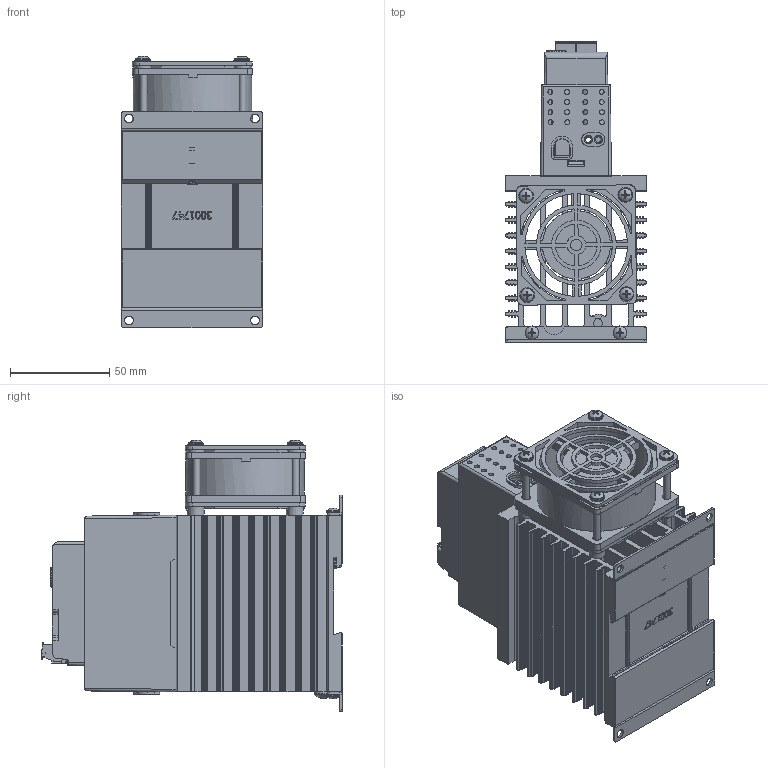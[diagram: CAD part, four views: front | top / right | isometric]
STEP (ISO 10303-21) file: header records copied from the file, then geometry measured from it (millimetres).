
FILE_DESCRIPTION(/* description */ (''),/* implementation_level */ '2;1');
FILE_NAME(/* name */ '1-phase Analog 65A w-mounting.stp',/* time_stamp */ '2024-10-29T14:35:07-05:00',/* author */ ('ErikG'),/* organization */ (''),/* preprocessor_version */ 'ST-DEVELOPER v20',/* originating_system */ 'Autodesk Inventor 2025',/* authorisation */ '');
FILE_SCHEMA (('AUTOMOTIVE_DESIGN { 1 0 10303 214 3 1 1 }'));
Products named in the file (27): 3001631e; 3001757; 1001578K; P1; fci 6 pin header OQ06120000J0G; fci 6 pin headerOQ06120000J0G half 1; fci 5 pin header OQ05120000J0G half 2; fci 6 pin connector TS06110B00J0G; fci 5 pin connector TS05110B00J0G LEFT HALF; fci 5 pin connector TS05110B00J0G RIGHT HALF; P4; usb-c31-s-vt-cs4-bk-pp-t-r-model ADAMTECH; 3001759; 3001760; 3001755; 3001756; 3001747; 0060702-1032-0375; 3001753; 0060002-0632-0375; 0060783-0610-010.ipt; spring; 0060002-0632-1175; 62111-0006-0; 2R36_SQ_FAN_1R0 depth; 3001773; 3001772
Assembly tree (37 placements, depth 6):
  3001631e
    3001757
    1001578K
      P1
        fci 6 pin header OQ06120000J0G
          fci 6 pin headerOQ06120000J0G half 1
          fci 5 pin header OQ05120000J0G half 2
          fci 6 pin connector TS06110B00J0G
            fci 5 pin connector TS05110B00J0G LEFT HALF
            fci 5 pin connector TS05110B00J0G RIGHT HALF
      P4
        usb-c31-s-vt-cs4-bk-pp-t-r-model ADAMTECH
    3001759
    3001760  x2
    3001755
    3001756
    3001747
    0060702-1032-0375
    3001753  x2
    0060002-0632-0375  x4
    0060783-0610-010.ipt
    spring
    0060002-0632-1175  x4
    62111-0006-0  x4
    2R36_SQ_FAN_1R0 depth
    3001773
    3001772
Bounding box: 71.12 x 151.53 x 136.93 mm (x, y, z)
Volume: 304745.9 mm3; surface area: 246673.7 mm2
Topology: 33 solids, 127 shells, 6104 faces, 16792 edges, 11038 vertices
Faces by surface type: plane 4192, cylinder 1364, cone 329, bspline 113, torus 95, sphere 11
Full cylindrical faces by diameter (mm): 0.254 x1, 0.45 x2, 0.55 x2, 0.65 x2, 1 x2, 2.3 x12, 2.54 x2, 2.642 x3, 2.95 x6, 3.277 x2, 3.505 x8, 4.293 x8, 4.318 x8, 4.826 x1, 4.917 x1, 6 x1, 6.172 x1, 6.858 x8, 7.493 x8, 7.976 x1, 9.474 x1, 34.29 x1, 57.15 x1, 59.69 x1
Entity records: 195483 total; most frequent: CARTESIAN_POINT 49813, ORIENTED_EDGE 30974, DIRECTION 28983, EDGE_CURVE 15487, LINE 11429, VECTOR 11429, VERTEX_POINT 10178, AXIS2_PLACEMENT_3D 8777
